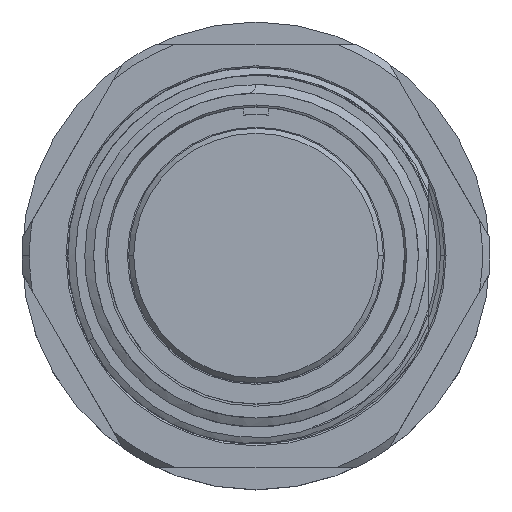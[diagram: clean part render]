
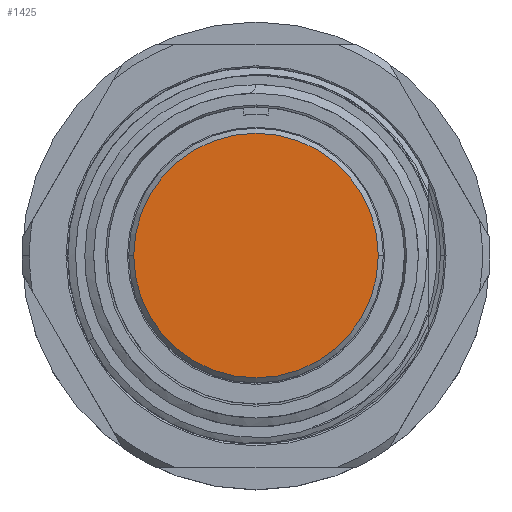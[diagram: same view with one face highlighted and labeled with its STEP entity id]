
A CAD part, top view. The second image highlights one B-rep face of the part: STEP entity #1425.
In plain terms, the highlighted planar face has unit normal (0, 0, 1).
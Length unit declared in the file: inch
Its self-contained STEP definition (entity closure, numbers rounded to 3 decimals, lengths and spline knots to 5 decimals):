
#1425 = ADVANCED_FACE ( 'NONE', ( #11331 ), #9994, .T. ) ;
#2142 = CARTESIAN_POINT ( 'NONE',  ( 0.4875, 0., -0.018 ) ) ;
#3164 = DIRECTION ( 'NONE',  ( 1., 0., 0. ) ) ;
#3296 = CARTESIAN_POINT ( 'NONE',  ( -0.4875, 0., -0.018 ) ) ;
#3420 = VERTEX_POINT ( 'NONE', #2142 ) ;
#4756 = DIRECTION ( 'NONE',  ( 0., 0., 1. ) ) ;
#7249 = CIRCLE ( 'NONE', #17512, 0.4875 ) ;
#7552 = CARTESIAN_POINT ( 'NONE',  ( 0., 0., -0.018 ) ) ;
#7609 = CARTESIAN_POINT ( 'NONE',  ( 0., 0., -0.018 ) ) ;
#7700 = CIRCLE ( 'NONE', #15416, 0.4875 ) ;
#8561 = DIRECTION ( 'NONE',  ( 1., 0., 0. ) ) ;
#9049 = DIRECTION ( 'NONE',  ( 1., 0., 0. ) ) ;
#9464 = EDGE_CURVE ( 'NONE', #3420, #15023, #7700, .T. ) ;
#9994 = PLANE ( 'NONE',  #12520 ) ;
#10149 = ORIENTED_EDGE ( 'NONE', *, *, #9464, .T. ) ;
#10341 = DIRECTION ( 'NONE',  ( 0., 0., 1. ) ) ;
#11260 = ORIENTED_EDGE ( 'NONE', *, *, #15532, .T. ) ;
#11331 = FACE_OUTER_BOUND ( 'NONE', #13885, .T. ) ;
#12520 = AXIS2_PLACEMENT_3D ( 'NONE', #14024, #10341, #8561 ) ;
#13885 = EDGE_LOOP ( 'NONE', ( #11260, #10149 ) ) ;
#14024 = CARTESIAN_POINT ( 'NONE',  ( 0., 0., -0.018 ) ) ;
#15023 = VERTEX_POINT ( 'NONE', #3296 ) ;
#15416 = AXIS2_PLACEMENT_3D ( 'NONE', #7552, #16039, #9049 ) ;
#15532 = EDGE_CURVE ( 'NONE', #15023, #3420, #7249, .T. ) ;
#16039 = DIRECTION ( 'NONE',  ( 0., 0., 1. ) ) ;
#17512 = AXIS2_PLACEMENT_3D ( 'NONE', #7609, #4756, #3164 ) ;
